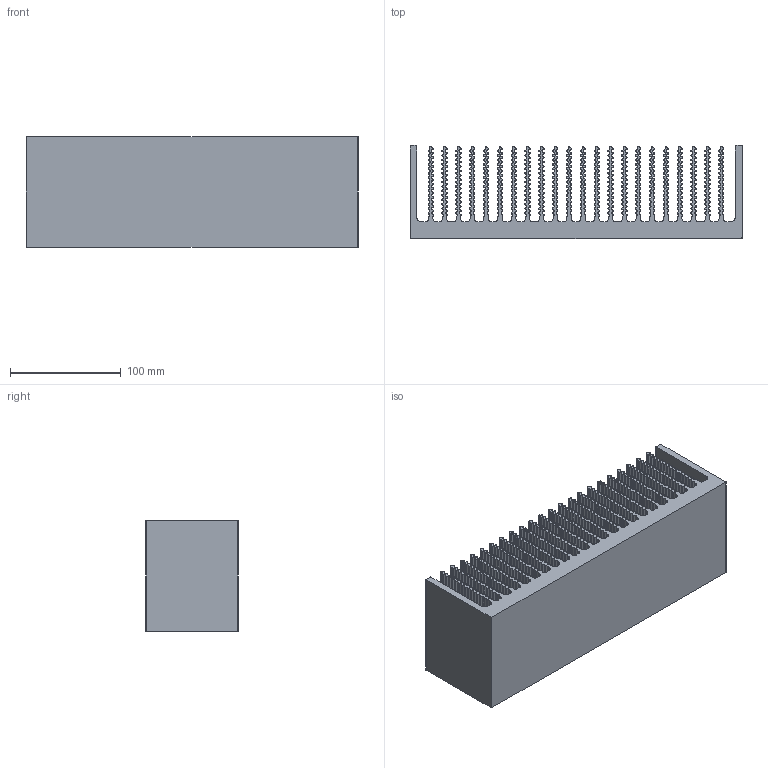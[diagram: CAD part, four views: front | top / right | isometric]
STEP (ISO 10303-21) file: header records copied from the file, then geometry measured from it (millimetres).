
FILE_DESCRIPTION (( 'STEP AP214' ), '1' );
FILE_NAME ('PR368.STEP', '2013-06-13T17:30:12', ( '' ), ( '' ), 'SwSTEP 2.0', 'SolidWorks 2013', '' );
FILE_SCHEMA (( 'AUTOMOTIVE_DESIGN' ));
Length unit declared in the file: millimetre
Products named in the file (1): PR368
Bounding box: 300 x 84 x 100 mm (x, y, z)
Volume: 986357.5 mm3; surface area: 505604.5 mm2
Topology: 1 solids, 1 shells, 2262 faces, 6780 edges, 4520 vertices
Faces by surface type: cylinder 2164, plane 98
Entity records: 78966 total; most frequent: DIRECTION 15634, CARTESIAN_POINT 13563, ORIENTED_EDGE 13560, EDGE_CURVE 6780, AXIS2_PLACEMENT_3D 6591, VERTEX_POINT 4520, CIRCLE 4328, VECTOR 2452
